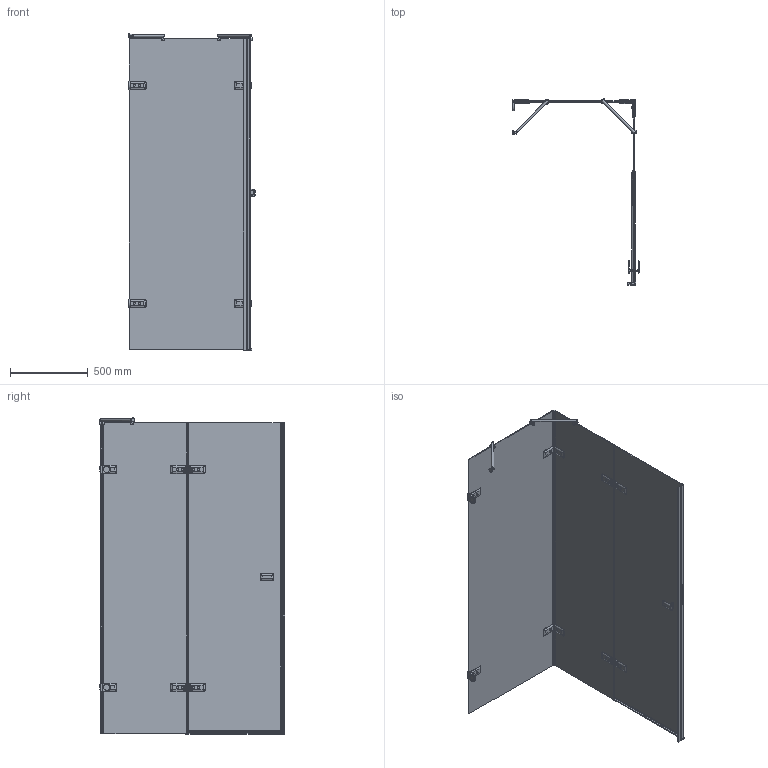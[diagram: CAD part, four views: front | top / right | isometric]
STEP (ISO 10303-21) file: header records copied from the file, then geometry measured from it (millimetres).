
FILE_DESCRIPTION(/* description */ (''),/* implementation_level */ '2;1');
FILE_NAME(/* name */ 'D:\!\!!!\TREND RECTAN GK-863D\TREND RECTAN GK-863D правая модель\TREND RECTAN GK-863D ПРАВАЯ-3D.stp',/* time_stamp */ '2020-03-23T18:53:47+03:00',/* author */ ('User'),/* organization */ (''),/* preprocessor_version */ 'ST-DEVELOPER v15.2',/* originating_system */ 'Autodesk Inventor 2014',/* authorisation */ '');
FILE_SCHEMA (('AUTOMOTIVE_DESIGN { 1 0 10303 214 3 1 1 }'));
Products named in the file (1): TREND RECTAN GK-863D ПРАВАЯ-
3D
Bounding box: 812.5 x 1193 x 2031.5 mm (x, y, z)
Volume: 25200671 mm3; surface area: 8448471.1 mm2
Topology: 4 solids, 32 shells, 1805 faces, 4633 edges, 2870 vertices
Faces by surface type: plane 1015, cylinder 483, bspline 188, torus 52, cone 44, sphere 23
Full cylindrical faces by diameter (mm): 4 x2, 4.134 x2, 4.917 x4, 5 x6, 5.2 x2, 6 x6, 7.2 x4, 8 x2, 9 x8, 11 x2, 12 x3, 13 x12, 15 x2, 16 x12, 20 x4, 26 x1, 28 x2, 28.5 x2, 40 x2
Entity records: 74760 total; most frequent: CARTESIAN_POINT 30953, ORIENTED_EDGE 8746, DIRECTION 8396, EDGE_CURVE 4369, AXIS2_PLACEMENT_3D 2887, VERTEX_POINT 2803, LINE 2622, VECTOR 2622
